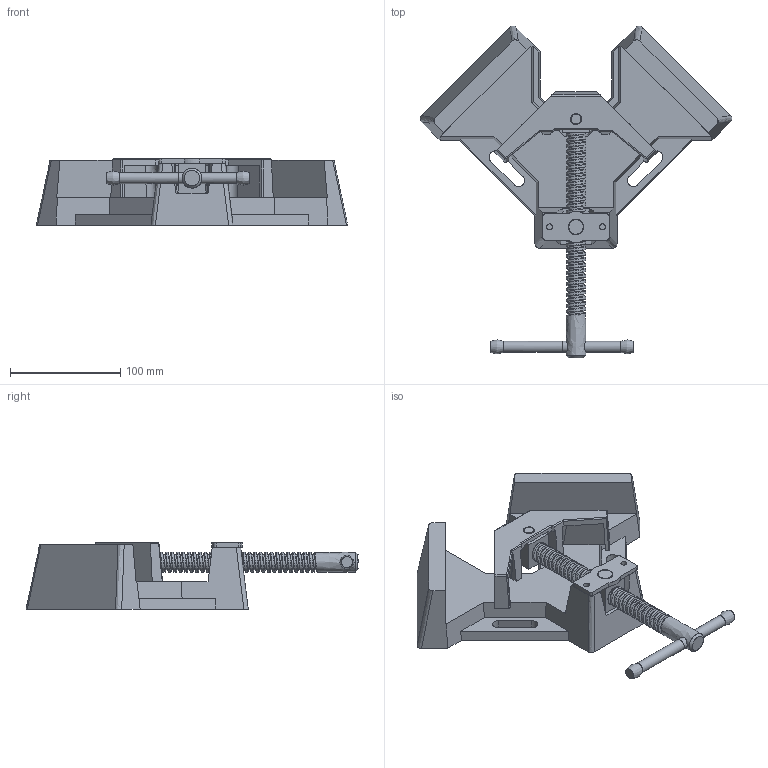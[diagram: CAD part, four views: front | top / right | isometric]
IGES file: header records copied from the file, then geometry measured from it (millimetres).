
Start section: ZWSOFT
Global section: file name: 3201368x_WSM9.igs; native system: ZW3D; preprocessor: 1.0; author: ZW3D; organization: ZWSOFT; date: 120913.103027; units: millimetre
Bounding box: 282.38 x 300.9 x 60.1 mm (x, y, z)
Surface area: 156724.7 mm2 (no closed solid volume)
Topology: 0 solids, 0 shells, 212 faces, 1212 edges, 1156 vertices
Faces by surface type: bspline 212
